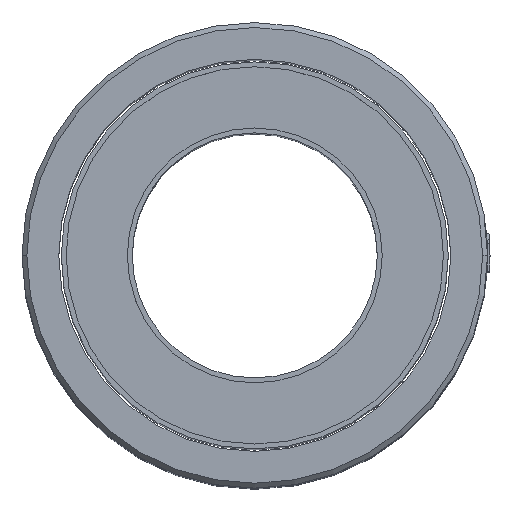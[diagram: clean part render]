
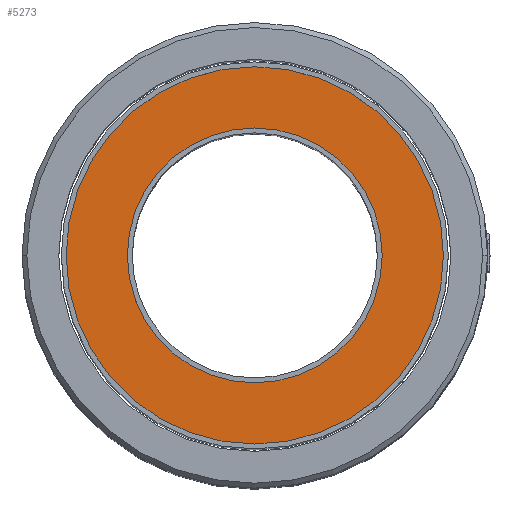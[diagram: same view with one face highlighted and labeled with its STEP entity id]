
A CAD part, top view. The second image highlights one B-rep face of the part: STEP entity #5273.
In plain terms, the highlighted planar face has unit normal (0, 0, 1).
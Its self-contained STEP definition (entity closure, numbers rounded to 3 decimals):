
#286 = CARTESIAN_POINT ( 'NONE',  ( 7.7, 0., 13.7 ) ) ;
#429 = CARTESIAN_POINT ( 'NONE',  ( 0., 0., 13.7 ) ) ;
#533 = CIRCLE ( 'NONE', #3718, 7.7 ) ;
#910 = DIRECTION ( 'NONE',  ( 0., 0., 1. ) ) ;
#1181 = DIRECTION ( 'NONE',  ( 1., 0., 0. ) ) ;
#1361 = VERTEX_POINT ( 'NONE', #3495 ) ;
#1439 = CIRCLE ( 'NONE', #2040, 5.2 ) ;
#1637 = DIRECTION ( 'NONE',  ( 0., 0., 1. ) ) ;
#1804 = CARTESIAN_POINT ( 'NONE',  ( -7.7, 0., 13.7 ) ) ;
#2005 = CARTESIAN_POINT ( 'NONE',  ( 0., 0., 13.7 ) ) ;
#2040 = AXIS2_PLACEMENT_3D ( 'NONE', #429, #5601, #1181 ) ;
#2056 = EDGE_CURVE ( 'NONE', #1361, #8630, #1439, .T. ) ;
#2339 = ORIENTED_EDGE ( 'NONE', *, *, #6706, .F. ) ;
#2545 = CARTESIAN_POINT ( 'NONE',  ( 0., 0., 13.7 ) ) ;
#2751 = DIRECTION ( 'NONE',  ( 1., 0., 0. ) ) ;
#2766 = ORIENTED_EDGE ( 'NONE', *, *, #3354, .T. ) ;
#3354 = EDGE_CURVE ( 'NONE', #5292, #7822, #9614, .T. ) ;
#3495 = CARTESIAN_POINT ( 'NONE',  ( 5.2, 0., 13.7 ) ) ;
#3718 = AXIS2_PLACEMENT_3D ( 'NONE', #2005, #7179, #2751 ) ;
#3984 = EDGE_LOOP ( 'NONE', ( #4498, #2766 ) ) ;
#4008 = DIRECTION ( 'NONE',  ( 1., 0., 0. ) ) ;
#4015 = AXIS2_PLACEMENT_3D ( 'NONE', #6055, #1637, #6814 ) ;
#4498 = ORIENTED_EDGE ( 'NONE', *, *, #7927, .T. ) ;
#5273 = ADVANCED_FACE ( 'NONE', ( #8518, #6752 ), #6222, .T. ) ;
#5292 = VERTEX_POINT ( 'NONE', #1804 ) ;
#5326 = CARTESIAN_POINT ( 'NONE',  ( 0., 0., 13.7 ) ) ;
#5601 = DIRECTION ( 'NONE',  ( 0., 0., 1. ) ) ;
#6055 = CARTESIAN_POINT ( 'NONE',  ( 0., 0., 13.7 ) ) ;
#6087 = DIRECTION ( 'NONE',  ( 1., 0., 0. ) ) ;
#6148 = ORIENTED_EDGE ( 'NONE', *, *, #2056, .F. ) ;
#6222 = PLANE ( 'NONE',  #8524 ) ;
#6706 = EDGE_CURVE ( 'NONE', #8630, #1361, #7182, .T. ) ;
#6752 = FACE_OUTER_BOUND ( 'NONE', #3984, .T. ) ;
#6814 = DIRECTION ( 'NONE',  ( 1., 0., 0. ) ) ;
#7179 = DIRECTION ( 'NONE',  ( 0., 0., 1. ) ) ;
#7182 = CIRCLE ( 'NONE', #8877, 5.2 ) ;
#7790 = EDGE_LOOP ( 'NONE', ( #6148, #2339 ) ) ;
#7822 = VERTEX_POINT ( 'NONE', #286 ) ;
#7927 = EDGE_CURVE ( 'NONE', #7822, #5292, #533, .T. ) ;
#8514 = DIRECTION ( 'NONE',  ( 0., 0., 1. ) ) ;
#8518 = FACE_BOUND ( 'NONE', #7790, .T. ) ;
#8524 = AXIS2_PLACEMENT_3D ( 'NONE', #2545, #8514, #4008 ) ;
#8630 = VERTEX_POINT ( 'NONE', #9628 ) ;
#8877 = AXIS2_PLACEMENT_3D ( 'NONE', #5326, #910, #6087 ) ;
#9614 = CIRCLE ( 'NONE', #4015, 7.7 ) ;
#9628 = CARTESIAN_POINT ( 'NONE',  ( -5.2, 0., 13.7 ) ) ;
